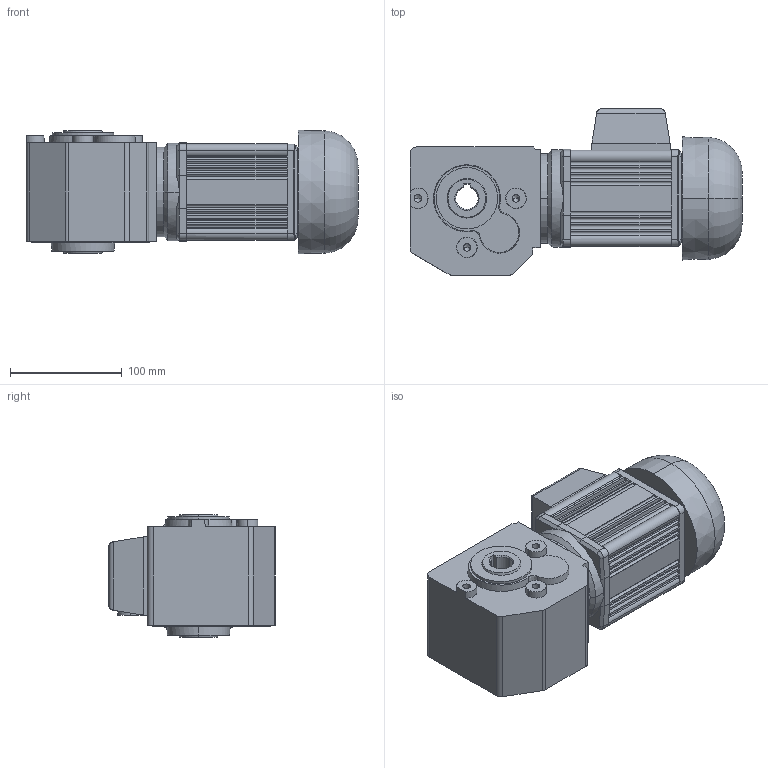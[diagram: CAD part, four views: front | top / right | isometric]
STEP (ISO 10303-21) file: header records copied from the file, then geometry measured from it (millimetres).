
FILE_DESCRIPTION(('OneSpaceDesigner STEP Export'),'2;1');
FILE_NAME('OEG51_ZB45_F.stp','2008-06-23T11:08:37',(''),(''),'OneSpace Designer STEP processor (Jan. 2003) for AP214(CD)(Solid Model)','OneSpace Designer 12.01D 09-Jul-2004 (C) CoCreate Software GmbH','');
FILE_SCHEMA(('AUTOMOTIVE_DESIGN_CC2 {1 2 10303 214 -1 1 5 1}'));
Length unit declared in the file: millimetre
Products named in the file (2): OEG51_ZB45_F
Assembly tree (1 placements, depth 2):
  OEG51_ZB45_F
    OEG51_ZB45_F
Bounding box: 297.5 x 149.48 x 110.5 mm (x, y, z)
Volume: 2609519.8 mm3; surface area: 179153.6 mm2
Topology: 1 solids, 1 shells, 379 faces, 1000 edges, 622 vertices
Faces by surface type: plane 203, cylinder 109, bspline 39, cone 26, torus 2
Entity records: 21132 total; most frequent: CARTESIAN_POINT 12693, ORIENTED_EDGE 1988, DIRECTION 1429, EDGE_CURVE 994, VERTEX_POINT 622, VECTOR 577, LINE 577, AXIS2_PLACEMENT_3D 426
